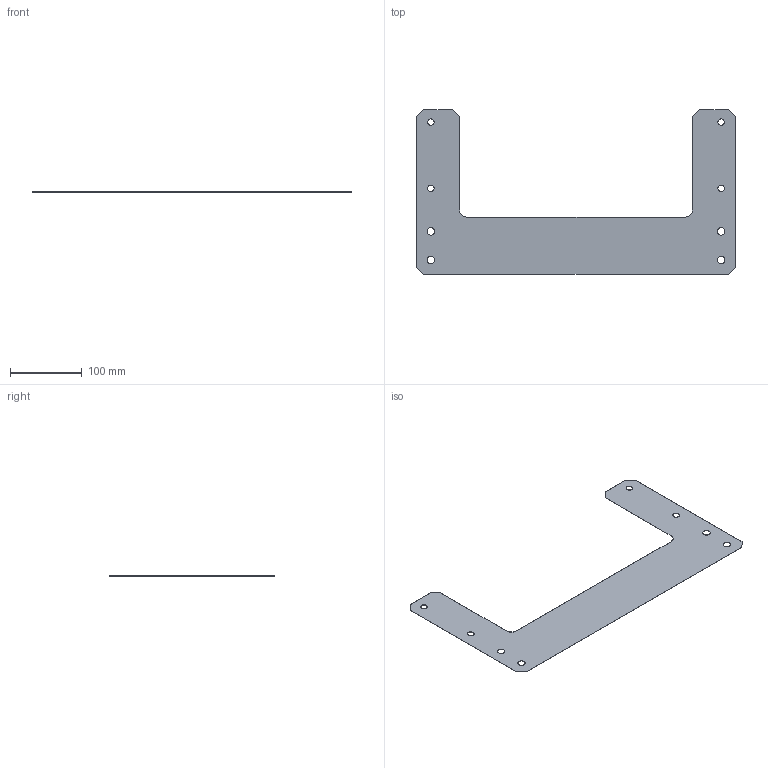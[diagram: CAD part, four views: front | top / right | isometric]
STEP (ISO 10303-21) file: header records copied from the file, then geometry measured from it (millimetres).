
FILE_DESCRIPTION(/* description */ ('FEUILLE MYLAR SUPPORT SUPPORT SPHERE 1','CAx-IF Rec.Pracs.---Representation and Presentation of Product Manufacturing Information (PMI)---4.0---2014-10-13'),/* implementation_level */ '2;1');
FILE_NAME(/* name */ 'vv180212-A.stp',/* time_stamp */ '2025-09-29T14:33:36+02:00',/* author */ ('RIVIERE C.'),/* organization */ (''),/* preprocessor_version */ 'ST-DEVELOPER v20',/* originating_system */ 'Autodesk Inventor 2025',/* authorisation */ '');
FILE_SCHEMA (('AP242_MANAGED_MODEL_BASED_3D_ENGINEERING_MIM_LF { 1 0 10303 442 1 1 4 }'));
Length unit declared in the file: millimetre
Products named in the file (1): VICTOR.V.18.02.12
Bounding box: 445 x 230 x 0.25 mm (x, y, z)
Volume: 13185.5 mm3; surface area: 105947 mm2
Topology: 1 solids, 1 shells, 26 faces, 72 edges, 48 vertices
Faces by surface type: plane 16, cylinder 10
Full cylindrical faces by diameter (mm): 9 x4, 10.5 x4
Entity records: 1179 total; most frequent: CARTESIAN_POINT 230, DIRECTION 182, ORIENTED_EDGE 144, EDGE_CURVE 72, AXIS2_PLACEMENT_3D 65, LINE 52, VECTOR 52, VERTEX_POINT 48
